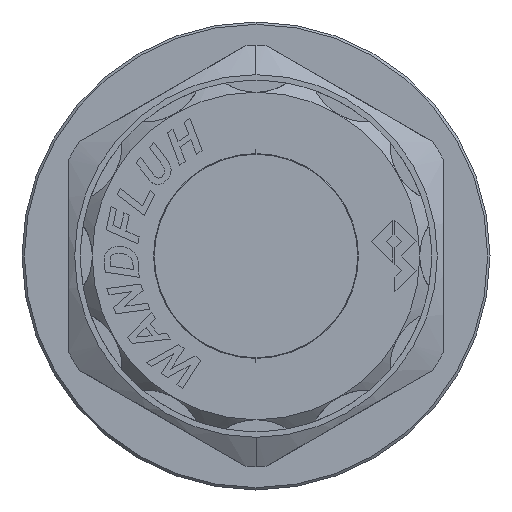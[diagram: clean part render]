
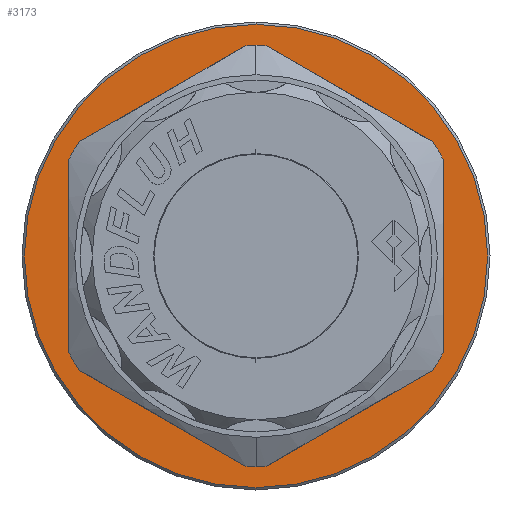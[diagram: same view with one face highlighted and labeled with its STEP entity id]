
A CAD part, left-side view. The second image highlights one B-rep face of the part: STEP entity #3173.
In plain terms, the highlighted planar face has unit normal (-1, 0, 0).
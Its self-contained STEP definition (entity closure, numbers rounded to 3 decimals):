
#2389 = LINE ( 'NONE', #32176, #2398 ) ;
#2398 = VECTOR ( 'NONE', #32175, 1000. ) ;
#2742 = VECTOR ( 'NONE', #31906, 1000. ) ;
#2748 = LINE ( 'NONE', #31908, #2742 ) ;
#2796 = CIRCLE ( 'NONE', #5270, 18. ) ;
#3034 = AXIS2_PLACEMENT_3D ( 'NONE', #30396, #30394, #30392 ) ;
#3173 = ADVANCED_FACE ( 'NONE', ( #8869, #8875 ), #20601, .F. ) ;
#4029 = CIRCLE ( 'NONE', #5281, 18. ) ;
#4313 = LINE ( 'NONE', #22136, #4437 ) ;
#4437 = VECTOR ( 'NONE', #22133, 1000. ) ;
#5270 = AXIS2_PLACEMENT_3D ( 'NONE', #27828, #27827, #27826 ) ;
#5281 = AXIS2_PLACEMENT_3D ( 'NONE', #23349, #23348, #23347 ) ;
#7005 = ORIENTED_EDGE ( 'NONE', *, *, #27411, .F. ) ;
#7006 = ORIENTED_EDGE ( 'NONE', *, *, #26865, .F. ) ;
#7052 = ORIENTED_EDGE ( 'NONE', *, *, #25063, .F. ) ;
#7196 = ORIENTED_EDGE ( 'NONE', *, *, #27122, .F. ) ;
#7217 = ORIENTED_EDGE ( 'NONE', *, *, #25427, .F. ) ;
#7231 = ORIENTED_EDGE ( 'NONE', *, *, #27347, .F. ) ;
#7360 = ORIENTED_EDGE ( 'NONE', *, *, #25750, .F. ) ;
#7425 = ORIENTED_EDGE ( 'NONE', *, *, #25421, .F. ) ;
#8296 = CIRCLE ( 'NONE', #17251, 18. ) ;
#8647 = CIRCLE ( 'NONE', #19591, 18. ) ;
#8827 = DIRECTION ( 'NONE',  ( 0., 0., 1. ) ) ;
#8828 = CARTESIAN_POINT ( 'NONE',  ( -7.2, 0., 0. ) ) ;
#8869 = FACE_OUTER_BOUND ( 'NONE', #31006, .T. ) ;
#8875 = FACE_BOUND ( 'NONE', #30422, .T. ) ;
#9384 = DIRECTION ( 'NONE',  ( 0., 0., 1. ) ) ;
#9386 = DIRECTION ( 'NONE',  ( -1., 0., 0. ) ) ;
#9388 = CARTESIAN_POINT ( 'NONE',  ( -7.2, 0., 0. ) ) ;
#9482 = DIRECTION ( 'NONE',  ( -1., 0., 0. ) ) ;
#10275 = VERTEX_POINT ( 'NONE', #15113 ) ;
#10277 = VERTEX_POINT ( 'NONE', #15110 ) ;
#10278 = VERTEX_POINT ( 'NONE', #15109 ) ;
#10279 = VERTEX_POINT ( 'NONE', #15108 ) ;
#10280 = VERTEX_POINT ( 'NONE', #15107 ) ;
#10281 = VERTEX_POINT ( 'NONE', #15106 ) ;
#10283 = VERTEX_POINT ( 'NONE', #15103 ) ;
#10284 = VERTEX_POINT ( 'NONE', #15102 ) ;
#10286 = VERTEX_POINT ( 'NONE', #15100 ) ;
#10288 = VERTEX_POINT ( 'NONE', #15096 ) ;
#11559 = DIRECTION ( 'NONE',  ( 0., -0.866, -0.5 ) ) ;
#11562 = CARTESIAN_POINT ( 'NONE',  ( -7.2, 16., -9.238 ) ) ;
#11768 = DIRECTION ( 'NONE',  ( 0., 0., -1. ) ) ;
#11772 = DIRECTION ( 'NONE',  ( -1., 0., 0. ) ) ;
#11773 = CARTESIAN_POINT ( 'NONE',  ( -7.2, 0., 0. ) ) ;
#12223 = DIRECTION ( 'NONE',  ( 0., 0., -1. ) ) ;
#12224 = DIRECTION ( 'NONE',  ( -1., 0., 0. ) ) ;
#12225 = CARTESIAN_POINT ( 'NONE',  ( -7.2, 0., 0. ) ) ;
#12274 = DIRECTION ( 'NONE',  ( 0., 0., 1. ) ) ;
#12275 = DIRECTION ( 'NONE',  ( -1., 0., 0. ) ) ;
#12276 = CARTESIAN_POINT ( 'NONE',  ( -7.2, 0., 0. ) ) ;
#12302 = CARTESIAN_POINT ( 'NONE',  ( -7.2, 0., 18.475 ) ) ;
#12304 = DIRECTION ( 'NONE',  ( 0., 0.866, -0.5 ) ) ;
#12494 = DIRECTION ( 'NONE',  ( 0., 0., 1. ) ) ;
#12495 = DIRECTION ( 'NONE',  ( -1., 0., 0. ) ) ;
#12496 = CARTESIAN_POINT ( 'NONE',  ( -7.2, 0., 0. ) ) ;
#12605 = VERTEX_POINT ( 'NONE', #15086 ) ;
#14156 = CARTESIAN_POINT ( 'NONE',  ( -7.2, -16., -9.238 ) ) ;
#14164 = DIRECTION ( 'NONE',  ( 0., 0., 1. ) ) ;
#14459 = CARTESIAN_POINT ( 'NONE',  ( -7.2, 0., -19.8 ) ) ;
#14491 = CARTESIAN_POINT ( 'NONE',  ( -7.2, 0., 18. ) ) ;
#14531 = CARTESIAN_POINT ( 'NONE',  ( -7.2, -0.859, 17.98 ) ) ;
#14710 = CARTESIAN_POINT ( 'NONE',  ( -7.2, 0., 19.8 ) ) ;
#15086 = CARTESIAN_POINT ( 'NONE',  ( -7.2, 15.141, -9.733 ) ) ;
#15096 = CARTESIAN_POINT ( 'NONE',  ( -7.2, 0.859, -17.98 ) ) ;
#15100 = CARTESIAN_POINT ( 'NONE',  ( -7.2, 16., -8.246 ) ) ;
#15102 = CARTESIAN_POINT ( 'NONE',  ( -7.2, 16., 8.246 ) ) ;
#15103 = CARTESIAN_POINT ( 'NONE',  ( -7.2, -0.859, -17.98 ) ) ;
#15106 = CARTESIAN_POINT ( 'NONE',  ( -7.2, 0.859, 17.98 ) ) ;
#15107 = CARTESIAN_POINT ( 'NONE',  ( -7.2, 15.141, 9.733 ) ) ;
#15108 = CARTESIAN_POINT ( 'NONE',  ( -7.2, -16., 8.246 ) ) ;
#15109 = CARTESIAN_POINT ( 'NONE',  ( -7.2, -15.141, 9.733 ) ) ;
#15110 = CARTESIAN_POINT ( 'NONE',  ( -7.2, -16., -8.246 ) ) ;
#15113 = CARTESIAN_POINT ( 'NONE',  ( -7.2, -15.141, -9.733 ) ) ;
#17251 = AXIS2_PLACEMENT_3D ( 'NONE', #9388, #9386, #9384 ) ;
#17531 = AXIS2_PLACEMENT_3D ( 'NONE', #20594, #20593, #20592 ) ;
#18146 = ORIENTED_EDGE ( 'NONE', *, *, #25536, .T. ) ;
#18159 = ORIENTED_EDGE ( 'NONE', *, *, #27432, .F. ) ;
#18269 = ORIENTED_EDGE ( 'NONE', *, *, #27555, .F. ) ;
#18282 = ORIENTED_EDGE ( 'NONE', *, *, #25447, .T. ) ;
#18337 = ORIENTED_EDGE ( 'NONE', *, *, #25982, .F. ) ;
#18403 = ORIENTED_EDGE ( 'NONE', *, *, #25562, .F. ) ;
#18411 = ORIENTED_EDGE ( 'NONE', *, *, #25258, .F. ) ;
#18679 = VERTEX_POINT ( 'NONE', #14710 ) ;
#18948 = VERTEX_POINT ( 'NONE', #14531 ) ;
#19045 = VERTEX_POINT ( 'NONE', #14491 ) ;
#19254 = VERTEX_POINT ( 'NONE', #14459 ) ;
#19591 = AXIS2_PLACEMENT_3D ( 'NONE', #8828, #9482, #8827 ) ;
#19620 = AXIS2_PLACEMENT_3D ( 'NONE', #11773, #11772, #11768 ) ;
#19630 = AXIS2_PLACEMENT_3D ( 'NONE', #12225, #12224, #12223 ) ;
#19635 = AXIS2_PLACEMENT_3D ( 'NONE', #12276, #12275, #12274 ) ;
#19696 = AXIS2_PLACEMENT_3D ( 'NONE', #12496, #12495, #12494 ) ;
#20592 = DIRECTION ( 'NONE',  ( 0., 0., -1. ) ) ;
#20593 = DIRECTION ( 'NONE',  ( 1., 0., 0. ) ) ;
#20594 = CARTESIAN_POINT ( 'NONE',  ( -7.2, 18., 0. ) ) ;
#20601 = PLANE ( 'NONE',  #17531 ) ;
#22133 = DIRECTION ( 'NONE',  ( 0., -0.866, 0.5 ) ) ;
#22136 = CARTESIAN_POINT ( 'NONE',  ( -7.2, 0., -18.475 ) ) ;
#23347 = DIRECTION ( 'NONE',  ( 0., 0., 1. ) ) ;
#23348 = DIRECTION ( 'NONE',  ( -1., 0., 0. ) ) ;
#23349 = CARTESIAN_POINT ( 'NONE',  ( -7.2, 0., 0. ) ) ;
#25063 = EDGE_CURVE ( 'NONE', #10277, #10279, #29735, .T. ) ;
#25258 = EDGE_CURVE ( 'NONE', #10280, #10284, #28686, .T. ) ;
#25421 = EDGE_CURVE ( 'NONE', #10281, #10280, #29503, .T. ) ;
#25427 = EDGE_CURVE ( 'NONE', #10275, #10277, #29079, .T. ) ;
#25447 = EDGE_CURVE ( 'NONE', #18679, #19254, #28896, .T. ) ;
#25536 = EDGE_CURVE ( 'NONE', #19254, #18679, #29604, .T. ) ;
#25562 = EDGE_CURVE ( 'NONE', #12605, #10288, #29214, .T. ) ;
#25750 = EDGE_CURVE ( 'NONE', #19045, #10281, #8647, .T. ) ;
#25982 = EDGE_CURVE ( 'NONE', #10286, #12605, #8296, .T. ) ;
#26865 = EDGE_CURVE ( 'NONE', #10279, #10278, #4029, .T. ) ;
#27122 = EDGE_CURVE ( 'NONE', #10283, #10275, #4313, .T. ) ;
#27347 = EDGE_CURVE ( 'NONE', #18948, #19045, #2796, .T. ) ;
#27411 = EDGE_CURVE ( 'NONE', #10278, #18948, #2389, .T. ) ;
#27432 = EDGE_CURVE ( 'NONE', #10284, #10286, #2748, .T. ) ;
#27555 = EDGE_CURVE ( 'NONE', #10288, #10283, #32760, .T. ) ;
#27826 = DIRECTION ( 'NONE',  ( 0., 0., 1. ) ) ;
#27827 = DIRECTION ( 'NONE',  ( -1., 0., 0. ) ) ;
#27828 = CARTESIAN_POINT ( 'NONE',  ( -7.2, 0., 0. ) ) ;
#28686 = CIRCLE ( 'NONE', #19696, 18. ) ;
#28896 = CIRCLE ( 'NONE', #19630, 19.8 ) ;
#29069 = VECTOR ( 'NONE', #12304, 1000. ) ;
#29079 = CIRCLE ( 'NONE', #19635, 18. ) ;
#29214 = LINE ( 'NONE', #11562, #29636 ) ;
#29503 = LINE ( 'NONE', #12302, #29069 ) ;
#29604 = CIRCLE ( 'NONE', #19620, 19.8 ) ;
#29636 = VECTOR ( 'NONE', #11559, 1000. ) ;
#29722 = VECTOR ( 'NONE', #14164, 1000. ) ;
#29735 = LINE ( 'NONE', #14156, #29722 ) ;
#30392 = DIRECTION ( 'NONE',  ( 0., 0., 1. ) ) ;
#30394 = DIRECTION ( 'NONE',  ( -1., 0., 0. ) ) ;
#30396 = CARTESIAN_POINT ( 'NONE',  ( -7.2, 0., 0. ) ) ;
#30422 = EDGE_LOOP ( 'NONE', ( #18269, #18403, #18337, #18159, #18411, #7425, #7360, #7231, #7005, #7006, #7052, #7217, #7196 ) ) ;
#31006 = EDGE_LOOP ( 'NONE', ( #18146, #18282 ) ) ;
#31906 = DIRECTION ( 'NONE',  ( 0., 0., -1. ) ) ;
#31908 = CARTESIAN_POINT ( 'NONE',  ( -7.2, 16., 9.238 ) ) ;
#32175 = DIRECTION ( 'NONE',  ( 0., 0.866, 0.5 ) ) ;
#32176 = CARTESIAN_POINT ( 'NONE',  ( -7.2, -16., 9.238 ) ) ;
#32760 = CIRCLE ( 'NONE', #3034, 18. ) ;
